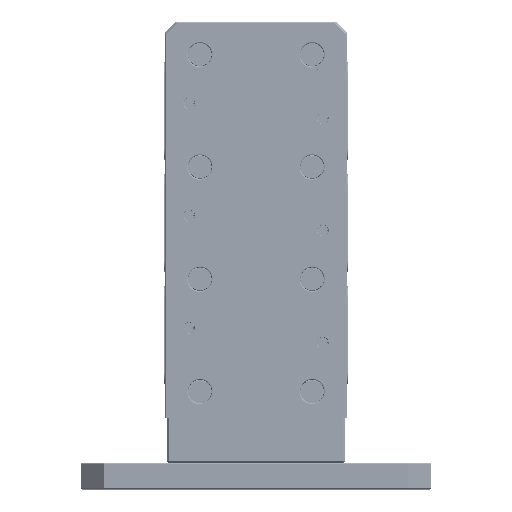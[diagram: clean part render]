
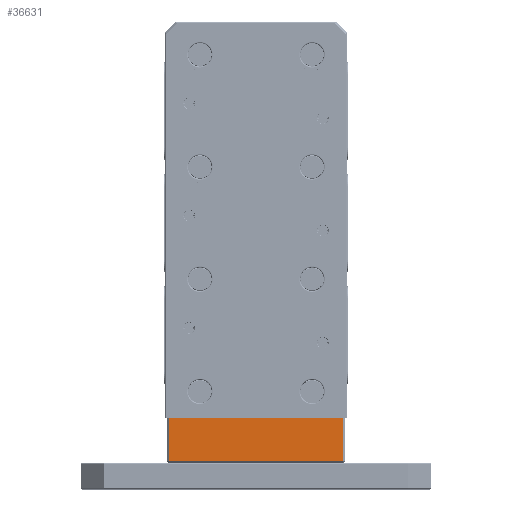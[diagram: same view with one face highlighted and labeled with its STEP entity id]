
A CAD part, top view. The second image highlights one B-rep face of the part: STEP entity #36631.
In plain terms, the highlighted planar face has unit normal (0, 0, 1).
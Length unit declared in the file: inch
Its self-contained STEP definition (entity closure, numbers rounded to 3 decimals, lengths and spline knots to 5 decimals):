
#1172 = EDGE_CURVE ( 'NONE', #49700, #43291, #23738, .T. ) ;
#1733 = VECTOR ( 'NONE', #53786, 39.37008 ) ;
#1843 = VERTEX_POINT ( 'NONE', #37511 ) ;
#2241 = EDGE_CURVE ( 'NONE', #36783, #49700, #51012, .T. ) ;
#2319 = ORIENTED_EDGE ( 'NONE', *, *, #52921, .T. ) ;
#3243 = DIRECTION ( 'NONE',  ( 1., 0., 0. ) ) ;
#3746 = CARTESIAN_POINT ( 'NONE',  ( -2.94087, 0.05, 1.8885 ) ) ;
#6184 = VECTOR ( 'NONE', #50062, 39.37008 ) ;
#7356 = DIRECTION ( 'NONE',  ( 0., 1., 0. ) ) ;
#14063 = ORIENTED_EDGE ( 'NONE', *, *, #2241, .T. ) ;
#15157 = EDGE_CURVE ( 'NONE', #43291, #1843, #23631, .T. ) ;
#20391 = DIRECTION ( 'NONE',  ( 0., 0., 1. ) ) ;
#20871 = CARTESIAN_POINT ( 'NONE',  ( 2.94087, 1.5, 1.8885 ) ) ;
#23631 = LINE ( 'NONE', #27640, #1733 ) ;
#23738 = LINE ( 'NONE', #42324, #55873 ) ;
#27640 = CARTESIAN_POINT ( 'NONE',  ( 2.99087, 1.5, 1.8885 ) ) ;
#28511 = EDGE_LOOP ( 'NONE', ( #14063, #45233, #35307, #2319 ) ) ;
#31729 = CARTESIAN_POINT ( 'NONE',  ( -2.94087, 1.5, 1.8885 ) ) ;
#33822 = CARTESIAN_POINT ( 'NONE',  ( 2.99087, 0.05, 1.8885 ) ) ;
#35307 = ORIENTED_EDGE ( 'NONE', *, *, #15157, .T. ) ;
#36631 = ADVANCED_FACE ( 'NONE', ( #41981 ), #52979, .T. ) ;
#36783 = VERTEX_POINT ( 'NONE', #3746 ) ;
#37511 = CARTESIAN_POINT ( 'NONE',  ( -2.94087, 1.5, 1.8885 ) ) ;
#41065 = LINE ( 'NONE', #31729, #6184 ) ;
#41981 = FACE_OUTER_BOUND ( 'NONE', #28511, .T. ) ;
#42324 = CARTESIAN_POINT ( 'NONE',  ( 2.94087, 1.5, 1.8885 ) ) ;
#43291 = VERTEX_POINT ( 'NONE', #20871 ) ;
#45233 = ORIENTED_EDGE ( 'NONE', *, *, #1172, .T. ) ;
#46114 = AXIS2_PLACEMENT_3D ( 'NONE', #46569, #20391, #50973 ) ;
#46569 = CARTESIAN_POINT ( 'NONE',  ( 2.99087, 1.5, 1.8885 ) ) ;
#48846 = CARTESIAN_POINT ( 'NONE',  ( 2.94087, 0.05, 1.8885 ) ) ;
#49658 = VECTOR ( 'NONE', #3243, 39.37008 ) ;
#49700 = VERTEX_POINT ( 'NONE', #48846 ) ;
#50062 = DIRECTION ( 'NONE',  ( 0., -1., 0. ) ) ;
#50973 = DIRECTION ( 'NONE',  ( 1., 0., 0. ) ) ;
#51012 = LINE ( 'NONE', #33822, #49658 ) ;
#52921 = EDGE_CURVE ( 'NONE', #1843, #36783, #41065, .T. ) ;
#52979 = PLANE ( 'NONE',  #46114 ) ;
#53786 = DIRECTION ( 'NONE',  ( -1., 0., 0. ) ) ;
#55873 = VECTOR ( 'NONE', #7356, 39.37008 ) ;
